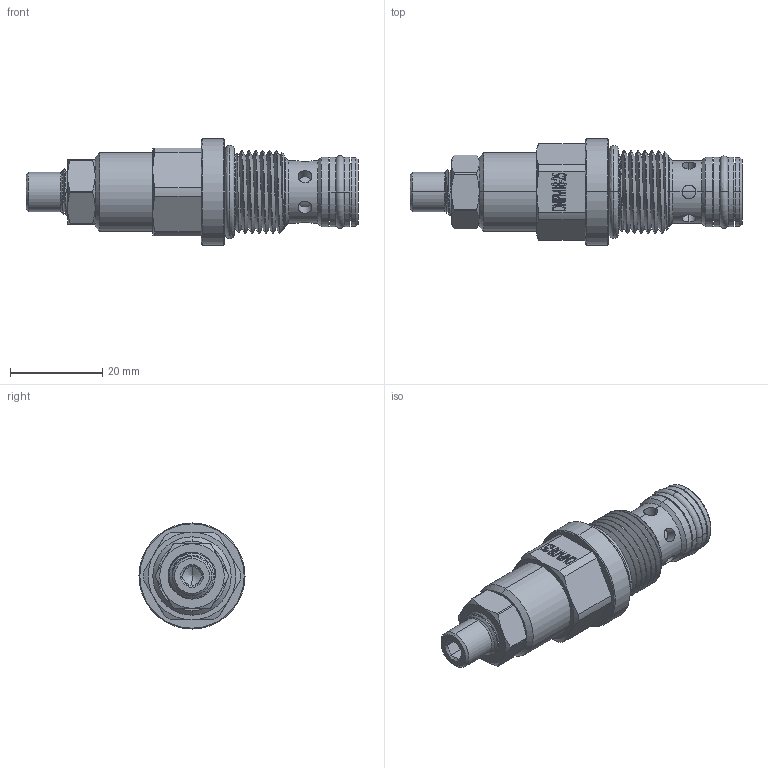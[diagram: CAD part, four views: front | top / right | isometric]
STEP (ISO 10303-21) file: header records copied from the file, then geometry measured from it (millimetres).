
FILE_DESCRIPTION (( 'STEP AP214' ), '1' );
FILE_NAME ('DNIPM18.STEP', '2017-03-14T12:23:46', ( '' ), ( '' ), 'SwSTEP 2.0', 'SolidWorks 2016', '' );
FILE_SCHEMA (( 'AUTOMOTIVE_DESIGN' ));
Length unit declared in the file: millimetre
Products named in the file (1): DNIPM18
Bounding box: 72 x 23 x 23 mm (x, y, z)
Volume: 14904 mm3; surface area: 6450.8 mm2
Topology: 3 solids, 3 shells, 314 faces, 772 edges, 491 vertices
Faces by surface type: plane 121, cylinder 85, bspline 54, cone 52, torus 2
Entity records: 16783 total; most frequent: CARTESIAN_POINT 6512, ORIENTED_EDGE 1540, DIRECTION 1211, EDGE_CURVE 770, VERTEX_POINT 491, AXIS2_PLACEMENT_3D 412, LINE 387, VECTOR 387
